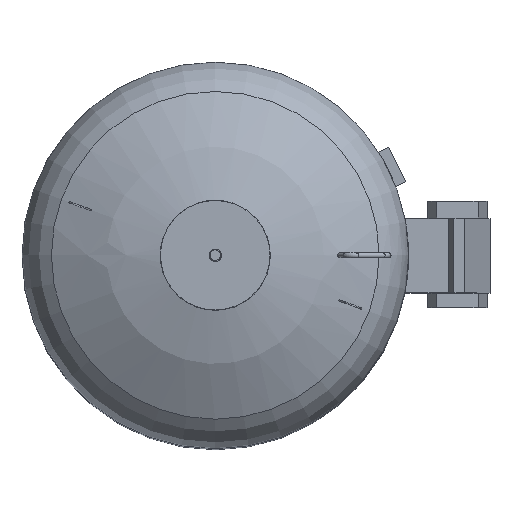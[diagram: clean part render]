
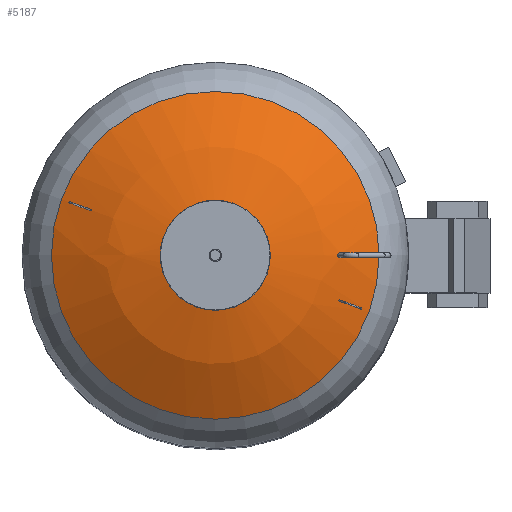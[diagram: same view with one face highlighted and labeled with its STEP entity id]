
A CAD part, top view. The second image highlights one B-rep face of the part: STEP entity #5187.
In plain terms, the highlighted spherical face has radius 967.7 mm.
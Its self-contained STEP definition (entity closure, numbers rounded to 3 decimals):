
#19=SPHERICAL_SURFACE('',#5566,967.7);
#142=FACE_BOUND('',#608,.T.);
#241=B_SPLINE_CURVE_WITH_KNOTS('',3,(#7773,#7774,#7775,#7776,#7777,#7778,
#7779,#7780,#7781,#7782,#7783,#7784,#7785,#7786,#7787,#7788,#7789,#7790),
 .UNSPECIFIED.,.F.,.F.,(4,2,2,2,2,2,2,2,4),(0.,0.302,0.605,
0.906,1.207,1.508,1.81,2.112,
2.414),.UNSPECIFIED.);
#242=B_SPLINE_CURVE_WITH_KNOTS('',3,(#7791,#7792,#7793,#7794,#7795,#7796,
#7797,#7798,#7799,#7800,#7801,#7802,#7803,#7804,#7805,#7806,#7807,#7808),
 .UNSPECIFIED.,.F.,.F.,(4,2,2,2,2,2,2,2,4),(2.414,2.717,
3.019,3.32,3.622,3.923,4.224,
4.526,4.829),.UNSPECIFIED.);
#314=FACE_OUTER_BOUND('',#607,.T.);
#607=EDGE_LOOP('',(#3604,#3605,#3606,#3607,#3608,#3609));
#608=EDGE_LOOP('',(#3610,#3611));
#1733=CIRCLE('',#5564,153.);
#1734=CIRCLE('',#5565,153.);
#1735=CIRCLE('',#5567,967.7);
#1736=CIRCLE('',#5568,508.692);
#1737=CIRCLE('',#5569,508.692);
#1989=VERTEX_POINT('',#7770);
#1990=VERTEX_POINT('',#7772);
#2107=VERTEX_POINT('',#8183);
#2108=VERTEX_POINT('',#8184);
#2109=VERTEX_POINT('',#8189);
#2110=VERTEX_POINT('',#8191);
#2518=EDGE_CURVE('',#1990,#1989,#241,.T.);
#2519=EDGE_CURVE('',#1989,#1990,#242,.T.);
#2687=EDGE_CURVE('',#2107,#2108,#1733,.T.);
#2688=EDGE_CURVE('',#2108,#2107,#1734,.T.);
#2690=EDGE_CURVE('',#2107,#2109,#1735,.T.);
#2691=EDGE_CURVE('',#2110,#2109,#1736,.T.);
#2692=EDGE_CURVE('',#2109,#2110,#1737,.T.);
#3604=ORIENTED_EDGE('',*,*,#2687,.T.);
#3605=ORIENTED_EDGE('',*,*,#2688,.T.);
#3606=ORIENTED_EDGE('',*,*,#2690,.T.);
#3607=ORIENTED_EDGE('',*,*,#2691,.F.);
#3608=ORIENTED_EDGE('',*,*,#2692,.F.);
#3609=ORIENTED_EDGE('',*,*,#2690,.F.);
#3610=ORIENTED_EDGE('',*,*,#2518,.T.);
#3611=ORIENTED_EDGE('',*,*,#2519,.T.);
#5187=ADVANCED_FACE('',(#314,#142),#19,.T.);
#5564=AXIS2_PLACEMENT_3D('',#8185,#6392,#6393);
#5565=AXIS2_PLACEMENT_3D('',#8186,#6394,#6395);
#5566=AXIS2_PLACEMENT_3D('',#8188,#6397,#6398);
#5567=AXIS2_PLACEMENT_3D('',#8190,#6399,#6400);
#5568=AXIS2_PLACEMENT_3D('',#8192,#6401,#6402);
#5569=AXIS2_PLACEMENT_3D('',#8193,#6403,#6404);
#6392=DIRECTION('center_axis',(0.,0.,-1.));
#6393=DIRECTION('ref_axis',(1.,0.,0.));
#6394=DIRECTION('center_axis',(0.,0.,-1.));
#6395=DIRECTION('ref_axis',(1.,0.,0.));
#6397=DIRECTION('center_axis',(0.,0.,1.));
#6398=DIRECTION('ref_axis',(1.,0.,0.));
#6399=DIRECTION('center_axis',(0.,-1.,0.));
#6400=DIRECTION('ref_axis',(-1.,0.,0.));
#6401=DIRECTION('center_axis',(0.,0.,-1.));
#6402=DIRECTION('ref_axis',(1.,0.,0.));
#6403=DIRECTION('center_axis',(0.,0.,-1.));
#6404=DIRECTION('ref_axis',(1.,0.,0.));
#7770=CARTESIAN_POINT('',(387.431,-8.,2765.403));
#7772=CARTESIAN_POINT('',(387.431,8.,2765.403));
#7773=CARTESIAN_POINT('Ctrl Pts',(387.431,8.,2765.403));
#7774=CARTESIAN_POINT('Ctrl Pts',(388.355,8.,2765.));
#7775=CARTESIAN_POINT('Ctrl Pts',(389.34,7.799,2764.569));
#7776=CARTESIAN_POINT('Ctrl Pts',(391.152,6.982,2763.777));
#7777=CARTESIAN_POINT('Ctrl Pts',(391.98,6.365,2763.416));
#7778=CARTESIAN_POINT('Ctrl Pts',(393.284,4.944,2762.846));
#7779=CARTESIAN_POINT('Ctrl Pts',(393.85,4.045,2762.599));
#7780=CARTESIAN_POINT('Ctrl Pts',(394.599,2.075,2762.271));
#7781=CARTESIAN_POINT('Ctrl Pts',(394.784,1.004,2762.19));
#7782=CARTESIAN_POINT('Ctrl Pts',(394.784,-1.004,2762.19));
#7783=CARTESIAN_POINT('Ctrl Pts',(394.599,-2.075,2762.271));
#7784=CARTESIAN_POINT('Ctrl Pts',(393.85,-4.045,2762.599));
#7785=CARTESIAN_POINT('Ctrl Pts',(393.284,-4.944,2762.846));
#7786=CARTESIAN_POINT('Ctrl Pts',(391.98,-6.365,2763.416));
#7787=CARTESIAN_POINT('Ctrl Pts',(391.152,-6.982,2763.777));
#7788=CARTESIAN_POINT('Ctrl Pts',(389.34,-7.799,2764.569));
#7789=CARTESIAN_POINT('Ctrl Pts',(388.355,-8.,2765.));
#7790=CARTESIAN_POINT('Ctrl Pts',(387.431,-8.,2765.403));
#7791=CARTESIAN_POINT('Ctrl Pts',(387.431,-8.,2765.403));
#7792=CARTESIAN_POINT('Ctrl Pts',(386.508,-8.,2765.807));
#7793=CARTESIAN_POINT('Ctrl Pts',(385.523,-7.799,2766.237));
#7794=CARTESIAN_POINT('Ctrl Pts',(383.71,-6.982,2767.029));
#7795=CARTESIAN_POINT('Ctrl Pts',(382.883,-6.365,2767.39));
#7796=CARTESIAN_POINT('Ctrl Pts',(381.578,-4.944,2767.96));
#7797=CARTESIAN_POINT('Ctrl Pts',(381.013,-4.045,2768.207));
#7798=CARTESIAN_POINT('Ctrl Pts',(380.263,-2.075,2768.535));
#7799=CARTESIAN_POINT('Ctrl Pts',(380.079,-1.004,2768.615));
#7800=CARTESIAN_POINT('Ctrl Pts',(380.079,1.004,2768.615));
#7801=CARTESIAN_POINT('Ctrl Pts',(380.263,2.075,2768.535));
#7802=CARTESIAN_POINT('Ctrl Pts',(381.013,4.045,2768.207));
#7803=CARTESIAN_POINT('Ctrl Pts',(381.578,4.944,2767.96));
#7804=CARTESIAN_POINT('Ctrl Pts',(382.883,6.365,2767.39));
#7805=CARTESIAN_POINT('Ctrl Pts',(383.71,6.982,2767.029));
#7806=CARTESIAN_POINT('Ctrl Pts',(385.523,7.799,2766.237));
#7807=CARTESIAN_POINT('Ctrl Pts',(386.508,8.,2765.807));
#7808=CARTESIAN_POINT('Ctrl Pts',(387.431,8.,2765.403));
#8183=CARTESIAN_POINT('',(-153.,0.,2834.209));
#8184=CARTESIAN_POINT('',(153.,0.,2834.209));
#8185=CARTESIAN_POINT('Origin',(0.,0.,2834.209));
#8186=CARTESIAN_POINT('Origin',(0.,0.,2834.209));
#8188=CARTESIAN_POINT('Origin',(0.,0.,1878.681));
#8189=CARTESIAN_POINT('',(-508.692,0.,2701.892));
#8190=CARTESIAN_POINT('Origin',(0.,0.,1878.681));
#8191=CARTESIAN_POINT('',(508.692,0.,2701.892));
#8192=CARTESIAN_POINT('Origin',(0.,0.,2701.892));
#8193=CARTESIAN_POINT('Origin',(0.,0.,2701.892));
